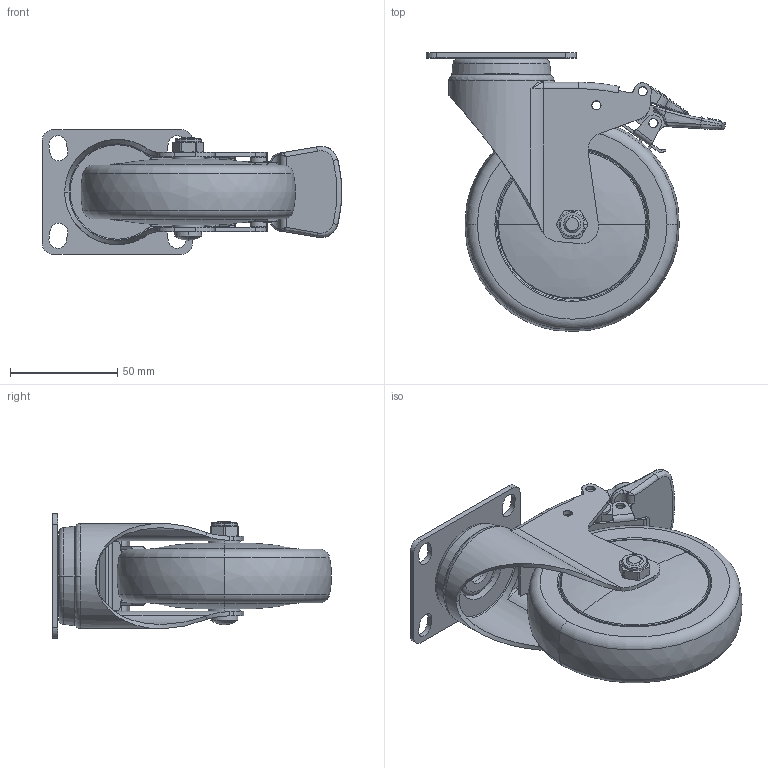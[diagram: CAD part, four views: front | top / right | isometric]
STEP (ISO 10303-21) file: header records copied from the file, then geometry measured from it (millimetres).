
FILE_DESCRIPTION((''),'2;1');
FILE_NAME('37124H_ASM','2026-07-14T',('Lenovo'),(''),'PRO/ENGINEER BY PARAMETRIC TECHNOLOGY CORPORATION, 2010280','PRO/ENGINEER BY PARAMETRIC TECHNOLOGY CORPORATION, 2010280','');
FILE_SCHEMA(('CONFIG_CONTROL_DESIGN'));
Length unit declared in the file: millimetre
Products named in the file (11): 3714-321; 360-01; 360-03; 370-64; 371-64; 3714-401; 374-907; 374-69A; 350-33A; 300-34; 37124H_ASM
Assembly tree (11 placements, depth 2):
  37124H_ASM
    3714-321
    360-01
    360-03
    370-64
    371-64
    3714-401
    374-907
    374-69A  x2
    350-33A
    300-34
Bounding box: 139.55 x 129.9 x 58 mm (x, y, z)
Volume: 192017.1 mm3; surface area: 99497.1 mm2
Topology: 11 solids, 11 shells, 800 faces, 2020 edges, 1269 vertices
Faces by surface type: plane 328, cylinder 210, bspline 121, torus 87, cone 52, sphere 2
Entity records: 30287 total; most frequent: CARTESIAN_POINT 12021, ORIENTED_EDGE 3904, DIRECTION 3570, EDGE_CURVE 1952, AXIS2_PLACEMENT_3D 1309, VERTEX_POINT 1231, VECTOR 952, LINE 952
